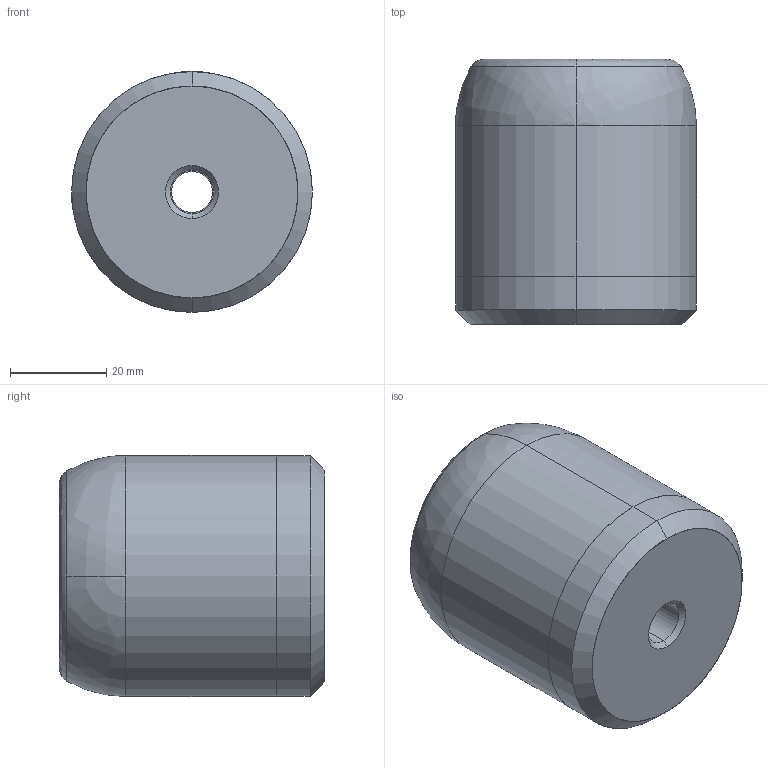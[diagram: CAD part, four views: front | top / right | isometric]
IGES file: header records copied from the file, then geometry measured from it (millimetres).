
Start section: START RECORD GO HERE.
Global section: file name: 700-50-55.igs; native system: DASSAULT SYSTEMES CATIA V5 R20 - www.3ds.com; preprocessor: CATIA Version 5 Release 20 ; author: Utente; organization: NB04-ASUS; date: 20201129.131536; units: millimetre
Bounding box: 50 x 55 x 50 mm (x, y, z)
Surface area: 13023.4 mm2 (no closed solid volume)
Topology: 0 solids, 0 shells, 24 faces, 103 edges, 100 vertices
Faces by surface type: revolution 20, plane 4
